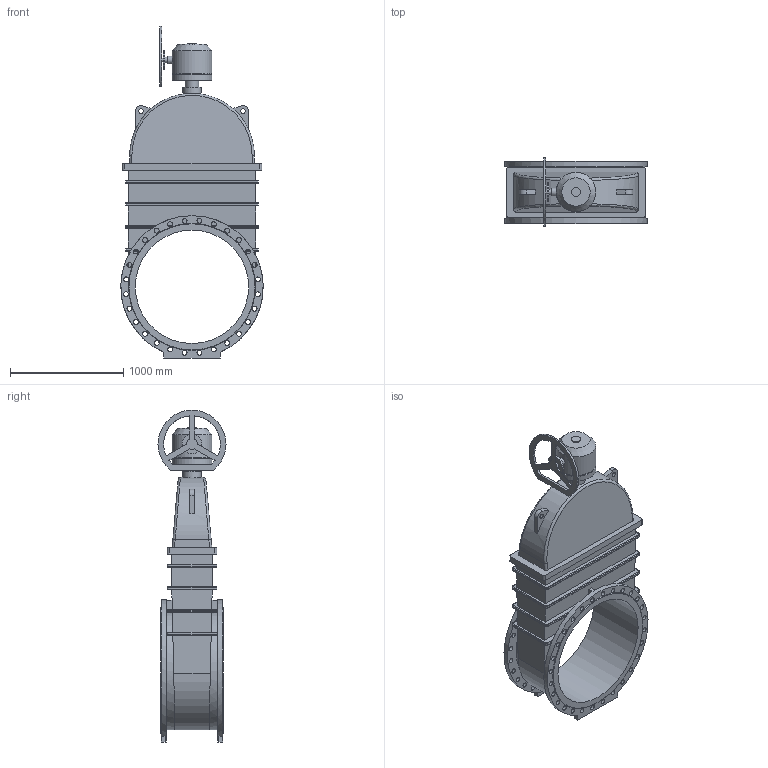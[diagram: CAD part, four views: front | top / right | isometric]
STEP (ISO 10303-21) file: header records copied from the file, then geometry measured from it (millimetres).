
FILE_DESCRIPTION(('STEP AP203'), '1');
FILE_NAME('Çàäâèæêà 47GV.Z DN1000 PN16 + ðåäóêòîð ñ ìàõîâèêîì', '', ('UNSPECIFIED'), ('UNSPECIFIED'), 'ASCON STEP Converter 1.6', 'ASCON Math Kernel', '');
FILE_SCHEMA(('CONFIG_CONTROL_DESIGN'));
Length unit declared in the file: millimetre
Bounding box: 1255 x 600 x 2927.5 mm (x, y, z)
Volume: 584451466.8 mm3; surface area: 11054015.9 mm2
Topology: 1 solids, 1 shells, 306 faces, 772 edges, 489 vertices
Faces by surface type: cylinder 145, plane 124, bspline 34, cone 3
Full cylindrical faces by diameter (mm): 30 x1, 40 x2, 43 x56, 50 x1, 70 x1, 80 x1, 100 x1, 120 x1, 160 x1, 175 x1, 330 x1, 350 x2, 1000 x1, 1255 x2
Entity records: 14753 total; most frequent: CARTESIAN_POINT 5149, DIRECTION 1402, ORIENTED_EDGE 1394, EDGE_CURVE 697, AXIS2_PLACEMENT_3D 535, EDGE_LOOP 526, VERTEX_POINT 489, FACE_BOUND 379
